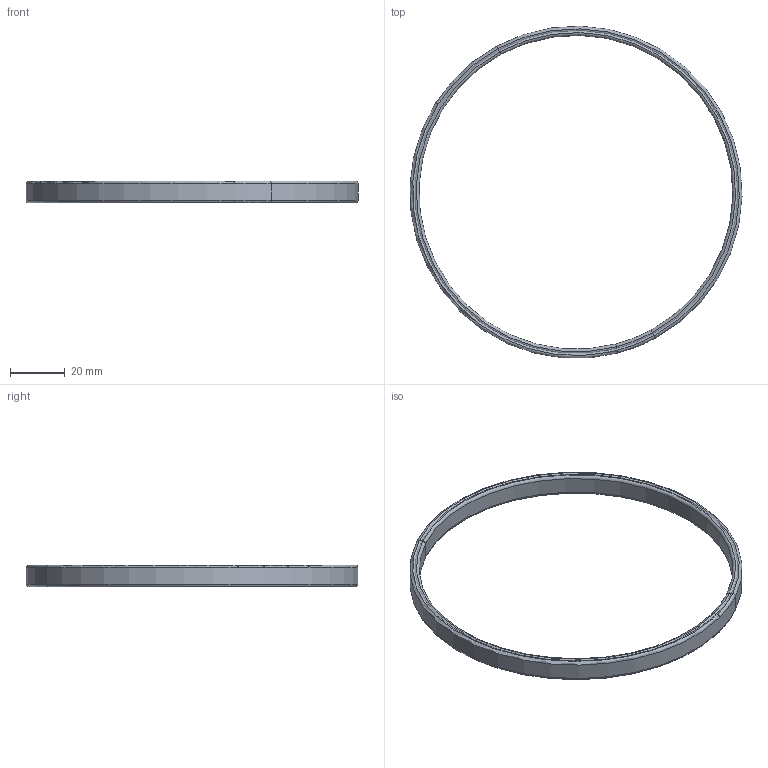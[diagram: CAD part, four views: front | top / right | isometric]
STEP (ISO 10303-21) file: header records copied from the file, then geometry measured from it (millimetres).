
FILE_DESCRIPTION(('CATIA V5 STEP Exchange'),'2;1');
FILE_NAME('C:\Users\Administrator\Desktop\SLT0010281-空气弹簧上端盖卡箍.stp','2021-04-28T05:47:47+00:00',('none'),('none'),'CATIA Version 5 Release 20 GA (IN-10)','CATIA V5 STEP AP214','none');
FILE_SCHEMA(('AUTOMOTIVE_DESIGN { 1 0 10303 214 1 1 1 1 }'));
Length unit declared in the file: millimetre
Products named in the file (1): SLT0010281
Bounding box: 121.21 x 121.07 x 8 mm (x, y, z)
Volume: 11221.5 mm3; surface area: 13549.7 mm2
Topology: 2 solids, 2 shells, 32 faces, 71 edges, 39 vertices
Faces by surface type: torus 24, cylinder 8
Entity records: 871 total; most frequent: CARTESIAN_POINT 143, ORIENTED_EDGE 142, DIRECTION 135, AXIS2_PLACEMENT_3D 96, EDGE_CURVE 71, CIRCLE 63, VERTEX_POINT 39, ADVANCED_FACE 32
